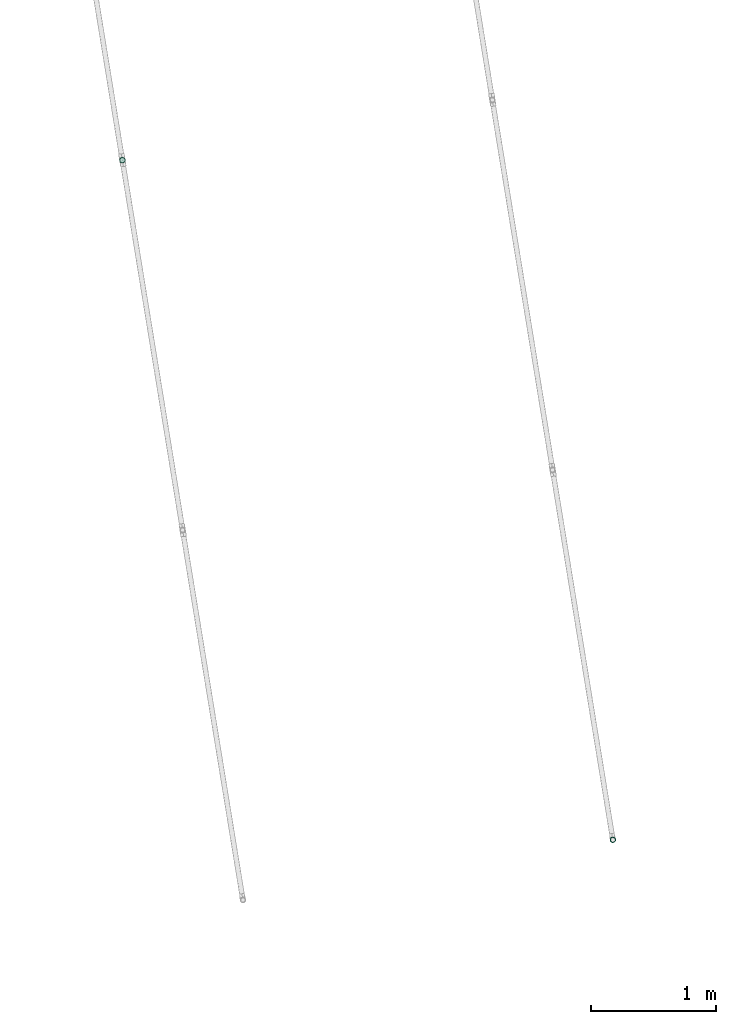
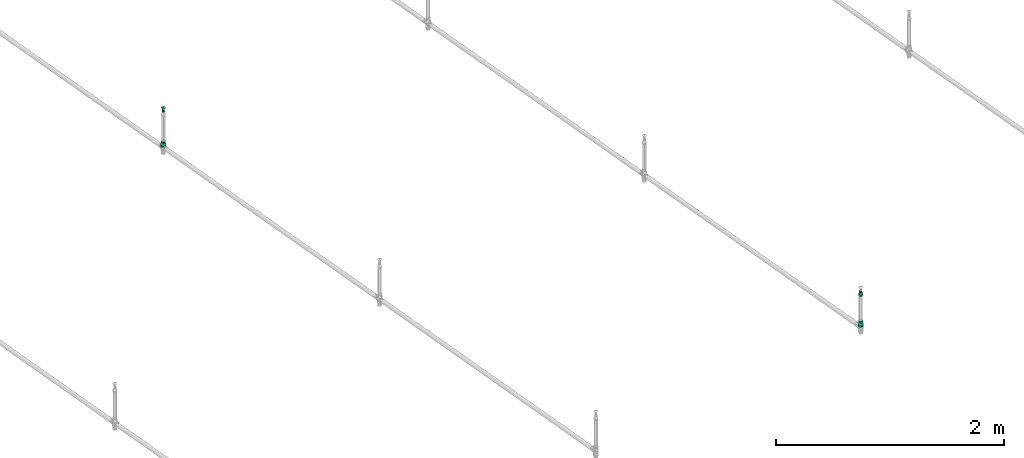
# One storey, part 37 of 56: 3 flow fittings, 1 flow terminal.
"""IFC2X3 building model written with IfcOpenShell, lengths in millimetres."""

import ifcopenshell
import ifcopenshell.guid

model = None  # the IFC model being written
_history = None  # IfcOwnerHistory: only IFC2X3 demands one
_inside = {}  # id of a spatial element -> (the spatial element, [elements in it])
_under = {}  # id of a project, library or spatial element -> (it, [spatial elements below it])
_declared = {}  # id of a project -> (the project, [libraries it declares])
_typed = {}  # id of a type object -> (the type object, [elements of that type])
_made_of = {}  # id of a material, layer set ... -> (it, [elements and type objects made of it])


def new_model(schema):
    """Start an empty IFC model of exactly this schema.

    Asked for "IFC4X3", IfcOpenShell would pick the latest addendum, in which some entities
    have other attributes; the version numbers below select the first issue.
    IFC2X3 requires an IfcOwnerHistory on every rooted entity: one is made here for all.
    """
    global model, _history
    if schema == "IFC4X3":
        model = ifcopenshell.file(schema_version=(4, 3, 0, 0))
    else:
        model = ifcopenshell.file(schema=schema)
    _inside.clear()
    _under.clear()
    _declared.clear()
    _typed.clear()
    _made_of.clear()
    _history = None
    if model.schema == "IFC2X3":
        org = make("IfcOrganization", Name="unknown")
        user = make(
            "IfcPersonAndOrganization",
            ThePerson=make("IfcPerson", FamilyName="unknown"),
            TheOrganization=org,
        )
        app = make(
            "IfcApplication",
            ApplicationDeveloper=org,
            Version="unknown",
            ApplicationFullName="unknown",
            ApplicationIdentifier="unknown",
        )
        _history = make(
            "IfcOwnerHistory",
            OwningUser=user,
            OwningApplication=app,
            ChangeAction="ADDED",
            CreationDate=0,
        )
    return model


def make(cls, **values):
    """One entity of the class cls with the attributes given. An attribute that is None is left unset."""
    return model.create_entity(
        cls, **{name: value for name, value in values.items() if value is not None}
    )


def entity(cls, *values):
    """Any entity or typed value of the class cls, its attributes in the order of the schema. None: left unset."""
    e = model.create_entity(cls)
    for i, value in enumerate(values):
        if value is not None:
            e[i] = value
    return e


def rooted(cls, **values):
    """An entity with a GlobalId (a new one), such as an element, a storey or a relation."""
    return make(cls, GlobalId=ifcopenshell.guid.new(), OwnerHistory=_history, **values)


def si_unit(unit_type, name, prefix=None):
    """IfcSIUnit, for example si_unit("LENGTHUNIT", "METRE", prefix="MILLI")."""
    return make("IfcSIUnit", UnitType=unit_type, Prefix=prefix, Name=name)


def converted_unit(unit_type, name, factor, base, dimensions=None, offset=None):
    """IfcConversionBasedUnit, such as the inch: factor (a typed value) times the base unit."""
    return make(
        "IfcConversionBasedUnit"
        if offset is None
        else "IfcConversionBasedUnitWithOffset",
        ConversionOffset=offset,
        Dimensions=None
        if dimensions is None
        else entity("IfcDimensionalExponents", *dimensions),
        UnitType=unit_type,
        Name=name,
        ConversionFactor=make(
            "IfcMeasureWithUnit", ValueComponent=factor, UnitComponent=base
        ),
    )


def derived_unit(unit_type, elements):
    """IfcDerivedUnit: a product of units, each with its exponent."""
    return make(
        "IfcDerivedUnit",
        Elements=[
            make("IfcDerivedUnitElement", Unit=unit, Exponent=power)
            for unit, power in elements
        ],
        UnitType=unit_type,
    )


def assignment(units):
    """IfcUnitAssignment: the units of a project."""
    return None if units is None else make("IfcUnitAssignment", Units=units)


def point(xyz):
    """IfcCartesianPoint."""
    return None if xyz is None else make("IfcCartesianPoint", Coordinates=xyz)


def direction(xyz):
    """IfcDirection."""
    return None if xyz is None else make("IfcDirection", DirectionRatios=xyz)


def frame(location, z_axis=None, x_axis=None):
    """IfcAxis2Placement3D, a coordinate frame: its origin and axes. An axis left out is left unset."""
    return make(
        "IfcAxis2Placement3D",
        Location=point(location),
        Axis=direction(z_axis),
        RefDirection=direction(x_axis),
    )


def origin():
    """The frame at (0, 0, 0) with its axes left unset."""
    return frame((0.0, 0.0, 0.0))


def origin_with_axes():
    """The frame at (0, 0, 0) with the z axis (0, 0, 1) and the x axis (1, 0, 0) written out."""
    return frame((0.0, 0.0, 0.0), z_axis=(0.0, 0.0, 1.0), x_axis=(1.0, 0.0, 0.0))


def place(relative_to, where):
    """IfcLocalPlacement: puts the frame where relative to a parent placement (None: the world)."""
    return make(
        "IfcLocalPlacement", PlacementRelTo=relative_to, RelativePlacement=where
    )


def context(
    kind, dimensions, precision=None, world=None, true_north=None, identifier=None
):
    """IfcGeometricRepresentationContext, for example the 3D "Model" context."""
    return make(
        "IfcGeometricRepresentationContext",
        ContextIdentifier=identifier,
        ContextType=kind,
        CoordinateSpaceDimension=dimensions,
        Precision=precision,
        WorldCoordinateSystem=world,
        TrueNorth=true_north,
    )


def subcontext(parent, identifier, kind, view, scale=None):
    """IfcGeometricRepresentationSubContext, for example "Body" below "Model"."""
    return make(
        "IfcGeometricRepresentationSubContext",
        ContextIdentifier=identifier,
        ContextType=kind,
        ParentContext=parent,
        TargetScale=scale,
        TargetView=view,
    )


def project(units=None, contexts=None):
    """IfcProject with its units and contexts."""
    return rooted(
        "IfcProject",
        Name="project",
        RepresentationContexts=contexts,
        UnitsInContext=assignment(units),
    )


def spatial(cls, under=None, at=None, **own):
    """A site, building, storey or space (cls), placed at a placement, below another one or the project."""
    s = rooted(cls, ObjectPlacement=at, **own)
    if under is not None:
        _under.setdefault(under.id(), (under, []))[1].append(s)
    return s


def faces_of(points, faces, orient=None, outer=None):
    """IfcFace entities. A face is a list of loops; a loop is a list of indices into points, from 0.

    orient and outer hold one flag for each loop. By default every Orientation is true, the
    first loop of a face is its IfcFaceOuterBound and the others are IfcFaceBound.
    """
    made = []
    for i, loops in enumerate(faces):
        bounds = []
        for j, loop in enumerate(loops):
            is_outer = j == 0 if outer is None else outer[i][j]
            bounds.append(
                make(
                    "IfcFaceOuterBound" if is_outer else "IfcFaceBound",
                    Bound=make("IfcPolyLoop", Polygon=[points[k] for k in loop]),
                    Orientation=True if orient is None else orient[i][j],
                )
            )
        made.append(make("IfcFace", Bounds=bounds))
    return made


def faceted_brep(points, faces, orient=None, outer=None, voids=None):
    """IfcFacetedBrep: a solid bounded by flat faces; with voids (closed shells), ...WithVoids."""
    shared = [point(p) for p in points]
    hull = make("IfcClosedShell", CfsFaces=faces_of(shared, faces, orient, outer))
    if voids is None:
        return make("IfcFacetedBrep", Outer=hull)
    return make(
        "IfcFacetedBrepWithVoids",
        Outer=hull,
        Voids=[
            make(cls, CfsFaces=faces_of(shared, fs, o, b)) for cls, fs, o, b in voids
        ],
    )


def shape(context_of_items, identifier, shape_type, items):
    """IfcShapeRepresentation: the items that make up one representation, for example the "Body"."""
    return make(
        "IfcShapeRepresentation",
        ContextOfItems=context_of_items,
        RepresentationIdentifier=identifier,
        RepresentationType=shape_type,
        Items=items,
    )


def source(mapping_origin, context_of_items, identifier, shape_type, items):
    """IfcRepresentationMap: a shape defined once, which mapped items show again and again."""
    return make(
        "IfcRepresentationMap",
        MappingOrigin=mapping_origin,
        MappedRepresentation=shape(context_of_items, identifier, shape_type, items),
    )


def transform(
    local_origin,
    x_axis=None,
    y_axis=None,
    z_axis=None,
    scale=None,
    scale2=None,
    scale3=None,
    uniform=True,
):
    """IfcCartesianTransformationOperator3D, or its non-uniform kind. x_axis, y_axis, z_axis: its Axis1, 2, 3."""
    if uniform:
        return make(
            "IfcCartesianTransformationOperator3D",
            Axis1=direction(x_axis),
            Axis2=direction(y_axis),
            LocalOrigin=point(local_origin),
            Scale=scale,
            Axis3=direction(z_axis),
        )
    return make(
        "IfcCartesianTransformationOperator3DnonUniform",
        Axis1=direction(x_axis),
        Axis2=direction(y_axis),
        LocalOrigin=point(local_origin),
        Scale=scale,
        Axis3=direction(z_axis),
        Scale2=scale2,
        Scale3=scale3,
    )


def mapped(mapping_source, mapping_target):
    """IfcMappedItem: shows the shape of a source again, moved by a transform."""
    return make(
        "IfcMappedItem", MappingSource=mapping_source, MappingTarget=mapping_target
    )


def material(Name=None, Category=None):
    """IfcMaterial."""
    return make("IfcMaterial", Name=Name, Category=Category)


def made_of(thing, what):
    """Note that an element or type object is made of a material, layer set ...; save() writes the relation."""
    if what is not None:
        _made_of.setdefault(what.id(), (what, []))[1].append(thing)
    return thing


def type_object(cls, material=None, **own):
    """A type object (cls), such as IfcWallType, which elements share."""
    return made_of(rooted(cls, **own), material)


def element(
    cls,
    number,
    at=None,
    inside=None,
    cuts=None,
    type_object=None,
    material=None,
    context=None,
    identifier="Body",
    shape_type=None,
    held_by="IfcProductDefinitionShape",
    body=None,
    shapes=None,
    **own,
):
    """One element of the class cls, such as IfcWall. Its Tag is "e" and its number.

    at: its placement. inside: the storey or other place that contains it. cuts: it is an
    opening in that element (IfcRelVoidsElement). A single representation is given by context,
    identifier, shape_type and body (its items); several are given by shapes. held_by: the class
    of the entity that holds the representations. save() writes the other relations.
    """
    e = rooted(cls, Tag="e%d" % number, ObjectPlacement=at, **own)
    if body is not None:
        shapes = [shape(context, identifier, shape_type, body)]
    if shapes is not None:
        e.Representation = make(held_by, Representations=shapes)
    if inside is not None:
        _inside.setdefault(inside.id(), (inside, []))[1].append(e)
    if cuts is not None:
        rooted(
            "IfcRelVoidsElement", RelatingBuildingElement=cuts, RelatedOpeningElement=e
        )
    if type_object is not None:
        _typed.setdefault(type_object.id(), (type_object, []))[1].append(e)
    return made_of(e, material)


def aggregate(whole, parts):
    """IfcRelAggregates: a whole, such as a stair, and the parts it consists of."""
    return rooted("IfcRelAggregates", RelatingObject=whole, RelatedObjects=parts)


def save(model, path):
    """Write the relations noted so far, then the file.

    IfcRelAggregates (storeys below a building ...), IfcRelContainedInSpatialStructure (elements
    in a storey), IfcRelDefinesByType, IfcRelAssociatesMaterial and IfcRelDeclares: one each for
    every whole, place, type object, material and project.
    """
    for whole, parts in _under.values():
        aggregate(whole, parts)
    for where, things in _inside.values():
        rooted(
            "IfcRelContainedInSpatialStructure",
            RelatedElements=things,
            RelatingStructure=where,
        )
    for kind, things in _typed.values():
        rooted("IfcRelDefinesByType", RelatedObjects=things, RelatingType=kind)
    for what, things in _made_of.values():
        rooted("IfcRelAssociatesMaterial", RelatedObjects=things, RelatingMaterial=what)
    for by, libraries in _declared.values():
        rooted("IfcRelDeclares", RelatingContext=by, RelatedDefinitions=libraries)
    model.write(path)


model = new_model("IFC2X3")

# Units and contexts
model_context = context("Model", 3, precision=0.01, world=origin(), true_north=direction((6.12323399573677e-17, 1.0)))
plan_context = context("Plan", 3, precision=1e-05, world=origin_with_axes())
body_context = subcontext(model_context, "Body", "Model", "MODEL_VIEW")
ifc_project = project(units=[converted_unit("PLANEANGLEUNIT", "DEGREE", entity("IfcPositiveLengthMeasure", 0.0174532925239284), si_unit("PLANEANGLEUNIT", "RADIAN"), dimensions=[0, 0, 0, 0, 0, 0, 0]), si_unit("AREAUNIT", "SQUARE_METRE"), si_unit("LENGTHUNIT", "METRE", prefix="MILLI"), si_unit("MASSUNIT", "GRAM", prefix="KILO"), si_unit("POWERUNIT", "WATT"), si_unit("PRESSUREUNIT", "PASCAL", prefix="KILO"), si_unit("FORCEUNIT", "NEWTON", prefix="KILO"), si_unit("ELECTRICVOLTAGEUNIT", "VOLT"), si_unit("ELECTRICCURRENTUNIT", "AMPERE"), si_unit("THERMODYNAMICTEMPERATUREUNIT", "DEGREE_CELSIUS"), si_unit("TIMEUNIT", "SECOND"), si_unit("VOLUMEUNIT", "CUBIC_METRE"), derived_unit("LINEARVELOCITYUNIT", [(si_unit("LENGTHUNIT", "METRE"), 1), (si_unit("TIMEUNIT", "SECOND"), -1)]), derived_unit("VOLUMETRICFLOWRATEUNIT", [(si_unit("VOLUMEUNIT", "CUBIC_METRE"), 1), (si_unit("TIMEUNIT", "SECOND"), -1)]), derived_unit("THERMALTRANSMITTANCEUNIT", [(si_unit("POWERUNIT", "WATT"), 1), (si_unit("THERMODYNAMICTEMPERATUREUNIT", "KELVIN"), -1), (si_unit("AREAUNIT", "SQUARE_METRE"), -1)]), derived_unit("SOUNDPRESSUREUNIT", [(si_unit("PRESSUREUNIT", "PASCAL"), 1)])], contexts=[model_context, plan_context])

# Site, building, storey
site_placement = place(None, frame((-3.09682673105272e-06, 1.93776733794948e-05, 0.0), z_axis=(0.0, 0.0, 1.0), x_axis=(-0.160806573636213, 0.986985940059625, 0.0)))
site = spatial("IfcSite", under=ifc_project, at=site_placement, Name="Default", CompositionType="ELEMENT")
building_placement = place(site_placement, frame((0.0, 0.0, 0.0), z_axis=(0.0, 0.0, 1.0), x_axis=(1.0, -2.77555756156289e-17, 0.0)))
building = spatial("IfcBuilding", under=site, at=building_placement, Name="Bygning (endres i Project Information)", CompositionType="ELEMENT")
storey_placement = place(building_placement, frame((0.0, 0.0, 51360.0000000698), z_axis=(0.0, 0.0, 1.0), x_axis=(1.0, -2.77555756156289e-17, 0.0)))
storey = spatial("IfcBuildingStorey", under=building, at=storey_placement, Name="H01-Nivå D+0,36", CompositionType="ELEMENT", Elevation=51360.0000000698)

# Flow fittings
ifc_material = material(Name="3320.001")
pipe_fitting_type_1 = type_object("IfcPipeFittingType", Name="RS_53_PIF_UN_Reducing-Socket-EN10241_MC_gen:RS_53_PIF_UN_Reducing-Socket-EN10241_MC_gen", PredefinedType="NOTDEFINED", material=ifc_material)
shared_shape_1 = source(origin(), body_context, "Body", "Brep", [
    faceted_brep([(0.0, 5.11167614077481, 19.0770350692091), (0.0, 9.87500000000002, 17.1040017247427), (0.0, 13.9653589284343, 13.9653589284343), (0.0, 17.1040017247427, 9.87499999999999), (0.0, 19.0770350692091, 5.11167614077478), (0.0, 19.75, 0.0), (0.0, 19.0770350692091, -5.1116761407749), (0.0, 17.1040017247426, -9.8750000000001), (0.0, 13.9653589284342, -13.9653589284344), (0.0, 9.87499999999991, -17.1040017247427), (0.0, 5.11167614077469, -19.0770350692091), (0.0, 0.0, -19.75), (0.0, -5.11167614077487, -19.0770350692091), (0.0, -9.87500000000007, -17.1040017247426), (0.0, -13.9653589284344, -13.9653589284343), (0.0, -17.1040017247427, -9.87499999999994), (0.0, -19.0770350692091, -5.11167614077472), (0.0, -19.75, 0.0), (0.0, -19.0770350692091, 5.11167614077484), (0.0, -17.1040017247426, 9.87500000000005), (0.0, -13.9653589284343, 13.9653589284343), (0.0, -9.87499999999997, 17.1040017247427), (0.0, -5.11167614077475, 19.0770350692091), (0.0, 0.0, 19.75), (17.0, -6.65118285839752, -18.277344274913), (17.0, -15.1289479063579, -12.6955675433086), (17.0, -16.8438814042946, -9.72538978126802), (17.0, -18.5588149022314, -6.7552120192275), (17.0, -9.87413131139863, -17.1045032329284), (17.0, -12.5015396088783, -14.9000353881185), (17.0, -19.1544074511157, -3.37760600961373), (17.0, -3.42823440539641, -19.4501853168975), (17.0, 3.43119786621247, -19.4496627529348), (17.0, 0.0014817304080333, -19.4499240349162), (17.0, -19.75, 0.0), (17.0, 6.65396758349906, -18.2763306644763), (17.0, 9.87673730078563, -17.1029985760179), (17.0, 18.5598439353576, -6.75238425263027), (17.0, 16.8453630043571, -9.7228232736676), (17.0, 15.1308820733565, -12.6932622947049), (17.0, 12.5038096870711, -14.8981304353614), (17.0, 19.75, 0.0), (17.0, 15.1308820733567, 12.6932622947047), (17.0, 16.8453630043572, 9.72282327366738), (17.0, 18.5598439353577, 6.75238425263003), (17.0, 9.87673730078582, 17.1029985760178), (17.0, 12.5038096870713, 14.8981304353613), (17.0, 3.43119786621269, 19.4496627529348), (17.0, 6.65396758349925, 18.2763306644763), (17.0, -3.4282344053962, 19.4501853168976), (17.0, 0.00148173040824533, 19.4499240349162), (17.0, -15.1289479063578, 12.6955675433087), (17.0, -6.65118285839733, 18.277344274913), (17.0, -9.87413131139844, 17.1045032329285), (17.0, -12.5015396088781, 14.9000353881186), (17.0, -19.1544074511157, 3.37760600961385), (17.0, -18.5588149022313, 6.75521201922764), (17.0, -16.8438814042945, 9.72538978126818), (34.0, 13.5000000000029, 0.0), (34.0, 12.6868795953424, -4.61444320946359), (34.0, -4.54589529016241, -12.4935366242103), (34.0, -2.34276817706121, -13.2951659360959), (34.0, 6.75195505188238, -11.6902139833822), (34.0, 0.00166747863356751, -13.2948718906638), (34.0, 2.34610313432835, -13.2945778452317), (34.0, 10.3432928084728, -8.67561489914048), (34.0, 8.54762393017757, -10.1829144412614), (34.0, 4.54902909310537, -12.492395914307), (34.0, 11.5150862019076, -6.64502905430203), (34.0, -6.74902240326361, -11.6919073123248), (34.0, -13.4999999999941, 0.0), (34.0, -13.0928608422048, -2.30881275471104), (34.0, -10.3411162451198, -8.6782091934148), (34.0, -8.54506932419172, -10.1850582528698), (34.0, -12.6857216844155, -4.61762550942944), (34.0, -11.5134189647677, -6.64791735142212), (34.0, -13.0928608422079, 2.30881275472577), (34.0, -12.6857216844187, 4.6176255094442), (34.0, 2.34610313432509, 13.2945778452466), (34.0, 4.54902909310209, 12.4923959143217), (34.0, -10.3411162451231, 8.67820919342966), (34.0, 0.00166747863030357, 13.2948718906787), (34.0, -6.74902240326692, 11.6919073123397), (34.0, -8.54506932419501, 10.1850582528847), (34.0, -11.5134189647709, 6.64791735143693), (34.0, -2.34276817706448, 13.2951659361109), (34.0, -4.5458952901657, 12.4935366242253), (34.0, 12.6868795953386, 4.61444320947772), (34.0, 11.5150862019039, 6.64502905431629), (34.0, 10.3432928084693, 8.67561489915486), (34.0, 6.7519550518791, 11.6902139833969), (34.0, 8.54762393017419, 10.1829144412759), (51.0, 3.49405710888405, -13.0399986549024), (51.0, 6.75000000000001, -11.6913429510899), (51.0, 9.5459415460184, -9.54594154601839), (51.0, 11.6913429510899, -6.74999999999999), (51.0, 13.0399986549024, -3.49405710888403), (51.0, 13.5, 0.0), (51.0, 13.0399986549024, 3.49405710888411), (51.0, 11.6913429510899, 6.75000000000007), (51.0, 9.54594154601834, 9.54594154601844), (51.0, 6.74999999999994, 11.69134295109), (51.0, 3.49405710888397, 13.0399986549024), (51.0, 0.0, 13.5), (51.0, -3.49405710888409, 13.0399986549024), (51.0, -6.75000000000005, 11.6913429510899), (51.0, -9.54594154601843, 9.54594154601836), (51.0, -11.6913429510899, 6.74999999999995), (51.0, -13.0399986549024, 3.49405710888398), (51.0, -13.5, 0.0), (51.0, -13.0399986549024, -3.49405710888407), (51.0, -11.6913429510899, -6.75000000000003), (51.0, -9.54594154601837, -9.54594154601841), (51.0, -6.74999999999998, -11.6913429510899), (51.0, -3.49405710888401, -13.0399986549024), (51.0, 0.0, -13.5)], [[[0, 1, 2, 3, 4, 5, 6, 7, 8, 9, 10, 11, 12, 13, 14, 15, 16, 17, 18, 19, 20, 21, 22, 23]], [[24, 13, 12]], [[15, 14, 25]], [[15, 25, 26, 27]], [[28, 29, 13]], [[16, 27, 30]], [[30, 17, 16]], [[15, 27, 16]], [[12, 31, 24]], [[25, 14, 29]], [[11, 32, 33, 31]], [[24, 28, 13]], [[13, 29, 14]], [[30, 34, 17]], [[32, 11, 10]], [[35, 9, 36]], [[7, 37, 38, 39]], [[9, 35, 10]], [[7, 6, 37]], [[8, 39, 40]], [[32, 10, 35]], [[7, 39, 8]], [[40, 36, 9]], [[6, 41, 37]], [[6, 5, 41]], [[11, 31, 12]], [[40, 9, 8]], [[41, 5, 4]], [[3, 2, 42]], [[3, 42, 43, 44]], [[45, 46, 1]], [[44, 41, 4]], [[0, 47, 48]], [[42, 2, 46]], [[23, 49, 50, 47]], [[1, 46, 2]], [[49, 23, 22]], [[19, 51, 20]], [[52, 21, 53]], [[3, 44, 4]], [[48, 45, 1]], [[54, 53, 21]], [[17, 34, 55]], [[21, 52, 22]], [[20, 51, 54]], [[49, 22, 52]], [[48, 1, 0]], [[17, 55, 18]], [[56, 19, 18]], [[18, 55, 56]], [[54, 21, 20]], [[57, 51, 19, 56]], [[23, 47, 0]], [[41, 58, 59]], [[60, 31, 61]], [[40, 62, 36]], [[63, 32, 64]], [[65, 39, 38]], [[64, 32, 35]], [[61, 33, 63]], [[37, 41, 59]], [[62, 40, 66]], [[40, 39, 66]], [[35, 36, 67]], [[65, 38, 68]], [[37, 68, 38]], [[64, 35, 67]], [[61, 31, 33]], [[69, 28, 24]], [[69, 24, 60]], [[70, 30, 71]], [[72, 29, 73]], [[30, 70, 34]], [[74, 27, 26]], [[68, 37, 59]], [[72, 25, 29]], [[27, 74, 71]], [[31, 60, 24]], [[29, 28, 73]], [[75, 26, 25]], [[67, 36, 62]], [[66, 39, 65]], [[27, 71, 30]], [[74, 26, 75]], [[73, 28, 69]], [[63, 33, 32]], [[75, 25, 72]], [[56, 76, 77]], [[48, 78, 79]], [[54, 51, 80]], [[81, 47, 50]], [[57, 56, 77]], [[52, 53, 82]], [[82, 53, 83]], [[55, 70, 76]], [[70, 55, 34]], [[84, 51, 57]], [[50, 85, 81]], [[56, 55, 76]], [[86, 49, 52]], [[83, 53, 54]], [[81, 78, 47]], [[48, 47, 78]], [[80, 51, 84]], [[49, 85, 50]], [[87, 44, 88]], [[87, 58, 41]], [[43, 42, 89]], [[57, 77, 84]], [[46, 45, 90]], [[85, 49, 86]], [[88, 44, 43]], [[54, 80, 83]], [[91, 42, 46]], [[52, 82, 86]], [[89, 42, 91]], [[87, 41, 44]], [[90, 45, 79]], [[46, 90, 91]], [[79, 45, 48]], [[43, 89, 88]], [[92, 93, 94, 95, 96, 97, 98, 99, 100, 101, 102, 103, 104, 105, 106, 107, 108, 109, 110, 111, 112, 113, 114, 115]], [[58, 97, 96]], [[95, 94, 65]], [[95, 65, 68, 59]], [[62, 66, 93]], [[59, 58, 96]], [[92, 64, 67]], [[65, 94, 66]], [[115, 61, 63, 64]], [[93, 66, 94]], [[67, 93, 92]], [[67, 62, 93]], [[95, 59, 96]], [[114, 61, 115]], [[111, 110, 74]], [[73, 113, 112]], [[109, 71, 110]], [[111, 74, 75, 72]], [[109, 70, 71]], [[60, 61, 114]], [[113, 69, 60]], [[111, 72, 112]], [[113, 60, 114]], [[112, 72, 73]], [[115, 64, 92]], [[71, 74, 110]], [[73, 69, 113]], [[86, 105, 104]], [[107, 106, 80]], [[107, 80, 84, 77]], [[82, 83, 105]], [[108, 77, 76]], [[76, 70, 109]], [[76, 109, 108]], [[104, 85, 86]], [[80, 106, 83]], [[103, 78, 81, 85]], [[91, 101, 100]], [[105, 83, 106]], [[86, 82, 105]], [[78, 103, 102]], [[79, 101, 90]], [[99, 87, 88, 89]], [[101, 79, 102]], [[99, 98, 87]], [[100, 89, 91]], [[78, 102, 79]], [[103, 85, 104]], [[99, 89, 100]], [[98, 58, 87]], [[107, 77, 108]], [[98, 97, 58]], [[91, 90, 101]]]),
])
flow_fitting_placement = place(storey_placement, frame((994236.26325463, -392286.663841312, 3707.99999993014), z_axis=(2.77555756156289e-17, 1.0, 0.0), x_axis=(0.0, 0.0, 1.0)))
element("IfcFlowFitting", 1, at=flow_fitting_placement, inside=storey, type_object=pipe_fitting_type_1, material=ifc_material, Name="RS_53_PIF_UN_Reducing-Socket-EN10241_MC_gen:RS_53_PIF_UN_Reducing-Socket-EN10241_MC_gen", ObjectType="RS_53_PIF_UN_Reducing-Socket-EN10241_MC_gen:RS_53_PIF_UN_Reducing-Socket-EN10241_MC_gen", context=body_context, shape_type="MappedRepresentation", body=[
    mapped(shared_shape_1, transform((0.0, 0.0, 0.0), scale=1.0)),
])
pipe_fitting_type_2 = type_object("IfcPipeFittingType", Name="RS_53_PIF_UN_Reducing-Socket-EN10241_MC_gen:RS_53_PIF_UN_Reducing-Socket-EN10241_MC_gen", PredefinedType="NOTDEFINED", material=ifc_material)
shared_shape_2 = source(origin(), body_context, "Body", "Brep", [
    faceted_brep([(0.0, 0.0, 24.5), (0.0, 6.34106660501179, 23.6651827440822), (0.0, 12.25, 21.2176223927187), (0.0, 17.3241161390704, 17.3241161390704), (0.0, 21.2176223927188, 12.25), (0.0, 23.6651827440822, 6.34106660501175), (0.0, 24.5, 0.0), (0.0, 23.6651827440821, -6.34106660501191), (0.0, 21.2176223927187, -12.2500000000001), (0.0, 17.3241161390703, -17.3241161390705), (0.0, 12.2499999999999, -21.2176223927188), (0.0, 6.34106660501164, -23.6651827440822), (0.0, 0.0, -24.5), (0.0, -6.34106660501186, -23.6651827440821), (0.0, -12.2500000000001, -21.2176223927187), (0.0, -17.3241161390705, -17.3241161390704), (0.0, -21.2176223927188, -12.2499999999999), (0.0, -23.6651827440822, -6.34106660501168), (0.0, -24.5, 0.0), (0.0, -23.6651827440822, 6.34106660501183), (0.0, -21.2176223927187, 12.2500000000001), (0.0, -17.3241161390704, 17.3241161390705), (0.0, -12.25, 21.2176223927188), (0.0, -6.34106660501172, 23.6651827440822), (18.6666666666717, -8.25137606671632, -22.6729794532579), (18.6666666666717, -18.7677686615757, -15.7486780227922), (18.6666666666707, -20.8950763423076, -12.0642027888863), (18.6666666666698, -23.0223840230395, -8.37972755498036), (18.6666666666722, -12.2493529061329, -21.2179959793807), (18.6666666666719, -15.5085607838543, -18.4833370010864), (18.6666666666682, -23.7125607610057, -4.46565710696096), (18.6666666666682, -23.7611920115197, -4.18986377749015), (18.6666666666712, -4.25339922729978, -24.1279629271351), (18.6666666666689, 4.25560674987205, -24.1275736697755), (18.6666666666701, 0.00110376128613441, -24.1277682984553), (18.6666666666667, -24.5, 0.0), (18.6666666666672, 8.25345045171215, -22.6722244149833), (18.6666666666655, 12.2512941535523, -21.2168751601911), (18.6666666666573, 23.0231506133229, -8.37762113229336), (18.6666666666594, 20.8961800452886, -12.062290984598), (18.6666666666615, 18.7692094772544, -15.7469608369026), (18.6666666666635, 15.5102518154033, -18.4819179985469), (18.6666666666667, 24.5, 0.0), (18.6666666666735, 18.7692094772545, 15.7469608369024), (18.666666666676, 20.8961800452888, 12.0622909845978), (18.6666666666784, 23.023150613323, 8.3776211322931), (18.6666666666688, 12.2512941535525, 21.216875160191), (18.6666666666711, 15.5102518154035, 18.4819179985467), (18.6666666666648, 4.25560674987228, 24.1275736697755), (18.6666666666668, 8.25345045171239, 22.6722244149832), (18.6666666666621, -4.25339922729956, 24.1279629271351), (18.6666666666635, 0.00110376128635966, 24.1277682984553), (18.6666666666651, -23.7611920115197, 4.1898637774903), (18.6666666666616, -8.25137606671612, 22.672979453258), (18.666666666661, -12.2493529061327, 21.2179959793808), (18.6666666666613, -15.5085607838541, 18.4833370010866), (18.6666666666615, -18.7677686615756, 15.7486780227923), (18.6666666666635, -23.0223840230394, 8.37972755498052), (18.6666666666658, -23.7125607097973, 4.46565739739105), (18.6666666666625, -20.8950763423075, 12.0642027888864), (37.3333333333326, 19.750000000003, 0.0), (37.3333333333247, 18.5595959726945, -6.75306577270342), (37.3333333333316, 9.87626627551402, -17.1032705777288), (37.3333333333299, 12.5033702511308, -14.8985095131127), (37.3333333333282, 15.1304742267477, -12.6937484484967), (37.3333333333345, 3.43075149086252, -19.4497414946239), (37.333333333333, 6.65350888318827, -18.2765060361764), (37.3333333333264, 16.8450350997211, -9.72340711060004), (37.3333333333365, -3.42859151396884, -19.4501223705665), (37.3333333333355, 0.00107998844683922, -19.4499319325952), (37.3333333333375, -9.87436684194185, -17.1043672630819), (37.333333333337, -6.65147917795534, -18.2772448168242), (37.3333333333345, -19.1544229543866, -3.37756341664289), (37.3333333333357, -18.558845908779, -6.75512683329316), (37.3333333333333, -19.7499999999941, 0.0), (37.3333333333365, -16.8439551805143, -9.72527774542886), (37.3333333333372, -15.1290644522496, -12.6954286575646), (37.3333333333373, -12.5017156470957, -14.8998979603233), (37.3333333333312, -18.5588459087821, 6.755126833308), (37.3333333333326, -19.1544229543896, 3.37756341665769), (37.3333333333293, -15.1290644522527, 12.6954286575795), (37.3333333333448, 18.559595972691, 6.75306577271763), (37.3333333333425, 16.8450350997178, 9.72340711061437), (37.3333333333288, -9.87436684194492, 17.104367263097), (37.3333333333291, -12.5017156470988, 14.8998979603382), (37.3333333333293, -6.65147917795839, 18.2772448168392), (37.3333333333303, -16.8439551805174, 9.72527774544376), (37.333333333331, 0.00107998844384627, 19.4499319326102), (37.3333333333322, 3.43075149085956, 19.4497414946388), (37.3333333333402, 15.1304742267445, 12.6937484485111), (37.333333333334, 6.65350888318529, 18.2765060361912), (37.3333333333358, 9.87626627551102, 17.1032705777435), (37.333333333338, 12.5033702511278, 14.8985095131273), (37.3333333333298, -3.42859151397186, 19.4501223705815), (56.0, 5.11167614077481, -19.0770350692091), (56.0, 9.87500000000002, -17.1040017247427), (56.0, 13.9653589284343, -13.9653589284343), (56.0, 17.1040017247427, -9.87499999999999), (56.0, 19.0770350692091, -5.11167614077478), (56.0, 19.75, 0.0), (56.0, 19.0770350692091, 5.1116761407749), (56.0, 17.1040017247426, 9.8750000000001), (56.0, 13.9653589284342, 13.9653589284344), (56.0, 9.87499999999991, 17.1040017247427), (56.0, 5.11167614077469, 19.0770350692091), (56.0, 0.0, 19.75), (56.0, -5.11167614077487, 19.0770350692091), (56.0, -9.87500000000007, 17.1040017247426), (56.0, -13.9653589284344, 13.9653589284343), (56.0, -17.1040017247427, 9.87499999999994), (56.0, -19.0770350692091, 5.11167614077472), (56.0, -19.75, 0.0), (56.0, -19.0770350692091, -5.11167614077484), (56.0, -17.1040017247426, -9.87500000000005), (56.0, -13.9653589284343, -13.9653589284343), (56.0, -9.87499999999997, -17.1040017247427), (56.0, -5.11167614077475, -19.0770350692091), (56.0, 0.0, -19.75)], [[[0, 1, 2, 3, 4, 5, 6, 7, 8, 9, 10, 11, 12, 13, 14, 15, 16, 17, 18, 19, 20, 21, 22, 23]], [[24, 14, 13]], [[16, 15, 25]], [[16, 25, 26, 27]], [[28, 29, 14]], [[17, 27, 30, 31]], [[31, 18, 17]], [[16, 27, 17]], [[13, 32, 24]], [[25, 15, 29]], [[12, 33, 34, 32]], [[24, 28, 14]], [[14, 29, 15]], [[31, 35, 18]], [[33, 12, 11]], [[36, 10, 37]], [[8, 38, 39, 40]], [[10, 36, 11]], [[8, 7, 38]], [[9, 40, 41]], [[33, 11, 36]], [[8, 40, 9]], [[41, 37, 10]], [[7, 42, 38]], [[7, 6, 42]], [[12, 32, 13]], [[41, 10, 9]], [[42, 6, 5]], [[4, 3, 43]], [[4, 43, 44, 45]], [[46, 47, 2]], [[45, 42, 5]], [[1, 48, 49]], [[43, 3, 47]], [[0, 50, 51, 48]], [[2, 47, 3]], [[50, 0, 23]], [[0, 48, 1]], [[18, 52, 19]], [[53, 22, 54]], [[49, 2, 1]], [[55, 22, 21]], [[35, 52, 18]], [[4, 45, 5]], [[22, 53, 23]], [[21, 56, 55]], [[50, 23, 53]], [[49, 46, 2]], [[20, 56, 21]], [[57, 20, 19]], [[19, 52, 58, 57]], [[55, 54, 22]], [[59, 56, 20, 57]], [[42, 60, 61]], [[41, 62, 37]], [[63, 40, 64]], [[40, 39, 64]], [[33, 36, 65]], [[65, 36, 66]], [[38, 42, 61]], [[64, 39, 67]], [[41, 40, 63]], [[36, 37, 66]], [[62, 41, 63]], [[38, 67, 39]], [[68, 34, 69]], [[68, 32, 34]], [[24, 70, 28]], [[32, 68, 71]], [[72, 35, 31, 30]], [[73, 27, 26]], [[72, 74, 35]], [[26, 75, 73]], [[76, 25, 29]], [[29, 77, 76]], [[70, 24, 71]], [[24, 32, 71]], [[70, 77, 28]], [[76, 75, 25]], [[28, 77, 29]], [[25, 75, 26]], [[73, 30, 27]], [[30, 73, 72]], [[66, 37, 62]], [[69, 34, 33]], [[69, 33, 65]], [[67, 38, 61]], [[78, 58, 79]], [[80, 55, 56]], [[81, 45, 82]], [[78, 59, 57]], [[83, 53, 54]], [[55, 80, 84]], [[79, 58, 52, 35]], [[78, 57, 58]], [[84, 54, 55]], [[85, 50, 53]], [[79, 35, 74]], [[86, 56, 59]], [[84, 83, 54]], [[48, 87, 88]], [[49, 48, 88]], [[59, 78, 86]], [[53, 83, 85]], [[87, 48, 51]], [[81, 60, 42]], [[44, 43, 89]], [[90, 46, 49]], [[47, 46, 91]], [[86, 80, 56]], [[82, 45, 44]], [[49, 88, 90]], [[92, 43, 47]], [[91, 46, 90]], [[51, 50, 93]], [[42, 45, 81]], [[85, 93, 50]], [[44, 89, 82]], [[51, 93, 87]], [[47, 91, 92]], [[89, 43, 92]], [[94, 95, 96, 97, 98, 99, 100, 101, 102, 103, 104, 105, 106, 107, 108, 109, 110, 111, 112, 113, 114, 115, 116, 117]], [[60, 99, 98]], [[97, 96, 64]], [[97, 64, 67, 61]], [[62, 63, 95]], [[61, 60, 98]], [[94, 65, 66]], [[64, 96, 63]], [[117, 68, 69, 65]], [[95, 63, 96]], [[117, 116, 68]], [[77, 70, 115]], [[66, 95, 94]], [[115, 70, 71]], [[113, 112, 73]], [[115, 71, 116]], [[117, 65, 94]], [[97, 61, 98]], [[72, 111, 74]], [[71, 68, 116]], [[113, 76, 114]], [[114, 76, 77]], [[77, 115, 114]], [[113, 73, 75, 76]], [[111, 72, 112]], [[66, 62, 95]], [[72, 73, 112]], [[85, 107, 106]], [[109, 108, 80]], [[109, 80, 86, 78]], [[83, 84, 107]], [[110, 78, 79]], [[79, 111, 110]], [[109, 78, 110]], [[106, 93, 85]], [[80, 108, 84]], [[105, 88, 87, 93]], [[85, 83, 107]], [[107, 84, 108]], [[79, 74, 111]], [[88, 105, 104]], [[90, 103, 91]], [[101, 81, 82, 89]], [[103, 90, 104]], [[101, 100, 81]], [[102, 89, 92]], [[88, 104, 90]], [[101, 89, 102]], [[92, 91, 103]], [[100, 60, 81]], [[100, 99, 60]], [[105, 93, 106]], [[92, 103, 102]]]),
])
for number, where, z_axis, x_axis in (
    (2, (994236.26325463, -392286.663841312, 3380.93333333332), (2.77555756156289e-17, 1.0, 0.0), (0.0, 0.0, 1.0)),
    (3, (1000236.26325463, -389286.663841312, 3380.93333333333), (2.77555756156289e-17, 1.0, 0.0), (0.0, 0.0, 1.0)),
):
    element("IfcFlowFitting", number, at=place(storey_placement, frame(where, z_axis=z_axis, x_axis=x_axis)), inside=storey, type_object=pipe_fitting_type_2, material=ifc_material, Name="RS_53_PIF_UN_Reducing-Socket-EN10241_MC_gen:RS_53_PIF_UN_Reducing-Socket-EN10241_MC_gen", ObjectType="RS_53_PIF_UN_Reducing-Socket-EN10241_MC_gen:RS_53_PIF_UN_Reducing-Socket-EN10241_MC_gen", context=body_context, shape_type="MappedRepresentation", body=[
        mapped(shared_shape_2, transform((0.0, 0.0, 0.0), scale=1.0)),
    ])

# Flow terminal
fire_suppression_terminal_type = type_object("IfcFireSuppressionTerminalType", Name="SU-15-K80-68DGR-STD:SU-15-K80-68DGR-STD", PredefinedType="NOTDEFINED", material=ifc_material)
shared_shape_3 = source(origin(), body_context, "Body", "Brep", [
    faceted_brep([(-2.5, 0.0, 62.0), (0.0, -2.5, 62.0), (2.5, 0.0, 62.0), (0.0, 2.5, 62.0), (-2.5, 0.0, 59.0), (0.0, 2.5, 59.0), (2.5, 0.0, 59.0), (0.0, -2.5, 59.0)], [[[0, 1, 2, 3]], [[4, 5, 6, 7]], [[0, 4, 7, 1]], [[7, 6, 2, 1]], [[2, 6, 5, 3]], [[5, 4, 0, 3]]]),
    faceted_brep([(1.0, -13.5, 47.0), (1.0, -13.5, 19.0), (1.0, -8.5, 19.0), (1.0, -8.5, 42.0), (1.0, 8.5, 42.0), (1.0, 8.5, 19.0), (1.0, 13.5, 19.0), (1.0, 13.5, 47.0), (-1.0, -13.5, 47.0), (-1.0, 13.5, 47.0), (-1.0, 13.5, 19.0), (-1.0, 8.5, 19.0), (-1.0, 8.5, 42.0), (-1.0, -8.5, 42.0), (-1.0, -8.5, 19.0), (-1.0, -13.5, 19.0)], [[[0, 1, 2, 3, 4, 5, 6, 7]], [[8, 9, 10, 11, 12, 13, 14, 15]], [[1, 0, 8, 15]], [[2, 1, 15, 14]], [[3, 2, 14, 13]], [[4, 3, 13, 12]], [[5, 4, 12, 11]], [[6, 5, 11, 10]], [[7, 6, 10, 9]], [[0, 7, 9, 8]]]),
    faceted_brep([(-13.5, 1.0, 47.0), (13.5, 1.0, 47.0), (13.5, 1.0, 19.0), (8.5, 1.0, 19.0), (8.5, 1.0, 42.0), (-8.5, 1.0, 42.0), (-8.5, 1.0, 19.0), (-13.5, 1.0, 19.0), (-13.5, -1.0, 47.0), (-13.5, -1.0, 19.0), (-8.5, -1.0, 19.0), (-8.5, -1.0, 42.0), (8.5, -1.0, 42.0), (8.5, -1.0, 19.0), (13.5, -1.0, 19.0), (13.5, -1.0, 47.0)], [[[0, 1, 2, 3, 4, 5, 6, 7]], [[8, 9, 10, 11, 12, 13, 14, 15]], [[1, 0, 8, 15]], [[2, 1, 15, 14]], [[3, 2, 14, 13]], [[4, 3, 13, 12]], [[5, 4, 12, 11]], [[6, 5, 11, 10]], [[7, 6, 10, 9]], [[0, 7, 9, 8]]]),
    faceted_brep([(0.0, 2.5, 59.0), (-2.5, 0.0, 59.0), (0.0, -2.5, 59.0), (2.5, 0.0, 59.0), (6.4893568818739, 19.9721868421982, 53.0), (16.9893568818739, 12.3434902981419, 53.0), (21.0, 0.0, 53.0), (16.989356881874, -12.3434902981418, 53.0), (6.48935688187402, -19.9721868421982, 53.0), (-6.48935688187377, -19.9721868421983, 53.0), (-16.9893568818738, -12.343490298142, 53.0), (-21.0, 0.0, 53.0), (-16.9893568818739, 12.3434902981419, 53.0), (-6.48935688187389, 19.9721868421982, 53.0)], [[[0, 1, 2, 3]], [[4, 5, 6, 7, 8, 9, 10, 11, 12, 13]], [[6, 3, 7]], [[2, 8, 7]], [[7, 3, 2]], [[2, 1, 10]], [[2, 10, 9]], [[10, 1, 11]], [[2, 9, 8]], [[11, 1, 12]], [[0, 13, 12]], [[12, 1, 0]], [[0, 3, 5]], [[0, 5, 4]], [[5, 3, 6]], [[0, 4, 13]]]),
    faceted_brep([(-2.5, 0.0, 53.0), (0.0, -2.5, 53.0), (2.5, 0.0, 53.0), (0.0, 2.5, 53.0), (-2.5, 0.0, 19.0), (0.0, 2.5, 19.0), (2.5, 0.0, 19.0), (0.0, -2.5, 19.0)], [[[0, 1, 2, 3]], [[4, 5, 6, 7]], [[0, 4, 7, 1]], [[7, 6, 2, 1]], [[2, 6, 5, 3]], [[5, 4, 0, 3]]]),
    faceted_brep([(3.62346663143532, -13.5229615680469, 19.0), (7.0, -12.1243556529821, 19.0), (9.89949493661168, -9.89949493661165, 19.0), (12.1243556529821, -7.0, 19.0), (13.522961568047, -3.62346663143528, 19.0), (14.0, 0.0, 19.0), (13.522961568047, 3.62346663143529, 19.0), (12.1243556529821, 7.0, 19.0), (9.89949493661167, 9.89949493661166, 19.0), (7.0, 12.1243556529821, 19.0), (3.62346663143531, 13.522961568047, 19.0), (0.0, 14.0, 19.0), (-3.62346663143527, 13.522961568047, 19.0), (-7.0, 12.1243556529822, 19.0), (-9.89949493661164, 9.89949493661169, 19.0), (-12.1243556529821, 7.0, 19.0), (-13.5229615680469, 3.62346663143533, 19.0), (-14.0, 0.0, 19.0), (-13.5229615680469, -3.62346663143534, 19.0), (-12.1243556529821, -7.0, 19.0), (-9.89949493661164, -9.89949493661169, 19.0), (-7.0, -12.1243556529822, 19.0), (-3.62346663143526, -13.522961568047, 19.0), (0.0, -14.0, 19.0), (9.89949493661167, 9.89949493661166, 13.0), (12.1243556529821, 7.0, 13.0), (13.522961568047, 3.62346663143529, 13.0), (14.0, 0.0, 13.0), (13.522961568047, -3.62346663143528, 13.0), (12.1243556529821, -7.0, 13.0), (9.89949493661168, -9.89949493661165, 13.0), (7.0, -12.1243556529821, 13.0), (3.62346663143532, -13.5229615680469, 13.0), (0.0, -14.0, 13.0), (-3.62346663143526, -13.522961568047, 13.0), (-7.0, -12.1243556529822, 13.0), (-9.89949493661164, -9.89949493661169, 13.0), (-12.1243556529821, -7.0, 13.0), (-13.5229615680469, -3.62346663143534, 13.0), (-14.0, 0.0, 13.0), (-13.5229615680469, 3.62346663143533, 13.0), (-12.1243556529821, 7.0, 13.0), (-9.89949493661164, 9.89949493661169, 13.0), (-7.0, 12.1243556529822, 13.0), (-3.62346663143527, 13.522961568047, 13.0), (0.0, 14.0, 13.0), (3.62346663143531, 13.522961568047, 13.0), (7.0, 12.1243556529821, 13.0)], [[[0, 1, 2, 3, 4, 5, 6, 7, 8, 9, 10, 11, 12, 13, 14, 15, 16, 17, 18, 19, 20, 21, 22, 23]], [[24, 25, 26, 27, 28, 29, 30, 31, 32, 33, 34, 35, 36, 37, 38, 39, 40, 41, 42, 43, 44, 45, 46, 47]], [[38, 18, 17, 39]], [[37, 19, 18, 38]], [[21, 20, 36, 35]], [[37, 36, 20, 19]], [[22, 21, 35, 34]], [[23, 22, 34, 33]], [[32, 0, 23, 33]], [[31, 1, 0, 32]], [[3, 2, 30, 29]], [[31, 30, 2, 1]], [[4, 3, 29, 28]], [[5, 4, 28, 27]], [[26, 6, 5, 27]], [[25, 7, 6, 26]], [[9, 8, 24, 47]], [[25, 24, 8, 7]], [[10, 9, 47, 46]], [[11, 10, 46, 45]], [[44, 12, 11, 45]], [[43, 13, 12, 44]], [[15, 14, 42, 41]], [[43, 42, 14, 13]], [[16, 15, 41, 40]], [[17, 16, 40, 39]]]),
    faceted_brep([(1.94114283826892, -7.24444369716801, 13.0), (3.75000000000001, -6.49519052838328, 13.0), (5.30330085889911, -5.3033008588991, 13.0), (6.49519052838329, -3.75, 13.0), (7.24444369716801, -1.9411428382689, 13.0), (7.5, 0.0, 13.0), (7.24444369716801, 1.9411428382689, 13.0), (6.49519052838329, 3.75, 13.0), (5.30330085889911, 5.3033008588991, 13.0), (3.75000000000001, 6.49519052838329, 13.0), (1.94114283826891, 7.24444369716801, 13.0), (0.0, 7.5, 13.0), (-1.94114283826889, 7.24444369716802, 13.0), (-3.74999999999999, 6.4951905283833, 13.0), (-5.3033008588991, 5.30330085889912, 13.0), (-6.49519052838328, 3.75000000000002, 13.0), (-7.24444369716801, 1.94114283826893, 13.0), (-7.5, 0.0, 13.0), (-7.244443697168, -1.94114283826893, 13.0), (-6.49519052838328, -3.75000000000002, 13.0), (-5.30330085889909, -5.30330085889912, 13.0), (-3.74999999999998, -6.4951905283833, 13.0), (-1.94114283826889, -7.24444369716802, 13.0), (0.0, -7.5, 13.0), (5.30330085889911, 5.3033008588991, 0.0), (6.49519052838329, 3.75, 0.0), (7.24444369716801, 1.9411428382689, 0.0), (7.5, 0.0, 0.0), (7.24444369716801, -1.9411428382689, 0.0), (6.49519052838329, -3.75, 0.0), (5.30330085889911, -5.3033008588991, 0.0), (3.75000000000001, -6.49519052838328, 0.0), (1.94114283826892, -7.24444369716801, 0.0), (0.0, -7.5, 0.0), (-1.94114283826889, -7.24444369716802, 0.0), (-3.74999999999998, -6.4951905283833, 0.0), (-5.30330085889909, -5.30330085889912, 0.0), (-6.49519052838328, -3.75000000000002, 0.0), (-7.244443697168, -1.94114283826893, 0.0), (-7.5, 0.0, 0.0), (-7.24444369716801, 1.94114283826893, 0.0), (-6.49519052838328, 3.75000000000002, 0.0), (-5.3033008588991, 5.30330085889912, 0.0), (-3.74999999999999, 6.4951905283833, 0.0), (-1.94114283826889, 7.24444369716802, 0.0), (0.0, 7.5, 0.0), (1.94114283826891, 7.24444369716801, 0.0), (3.75000000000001, 6.49519052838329, 0.0)], [[[0, 1, 2, 3, 4, 5, 6, 7, 8, 9, 10, 11, 12, 13, 14, 15, 16, 17, 18, 19, 20, 21, 22, 23]], [[24, 25, 26, 27, 28, 29, 30, 31, 32, 33, 34, 35, 36, 37, 38, 39, 40, 41, 42, 43, 44, 45, 46, 47]], [[38, 18, 17, 39]], [[37, 19, 18, 38]], [[21, 20, 36, 35]], [[37, 36, 20, 19]], [[22, 21, 35, 34]], [[23, 22, 34, 33]], [[32, 0, 23, 33]], [[31, 1, 0, 32]], [[3, 2, 30, 29]], [[31, 30, 2, 1]], [[4, 3, 29, 28]], [[5, 4, 28, 27]], [[26, 6, 5, 27]], [[25, 7, 6, 26]], [[9, 8, 24, 47]], [[25, 24, 8, 7]], [[10, 9, 47, 46]], [[11, 10, 46, 45]], [[44, 12, 11, 45]], [[43, 13, 12, 44]], [[15, 14, 42, 41]], [[43, 42, 14, 13]], [[16, 15, 41, 40]], [[17, 16, 40, 39]]]),
])
flow_terminal_placement = place(storey_placement, frame((1000236.26325463, -389286.663841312, 3741.99999993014), z_axis=(0.0, 0.0, 1.0), x_axis=(-1.0, 2.77555756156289e-17, 0.0)))
element("IfcFlowTerminal", 4, at=flow_terminal_placement, inside=storey, type_object=fire_suppression_terminal_type, material=ifc_material, Name="SU-15-K80-68DGR-STD:SU-15-K80-68DGR-STD", ObjectType="SU-15-K80-68DGR-STD:SU-15-K80-68DGR-STD", context=body_context, shape_type="MappedRepresentation", body=[
    mapped(shared_shape_3, transform((0.0, 0.0, 0.0), scale=1.0)),
])

save(model, "model.ifc")
